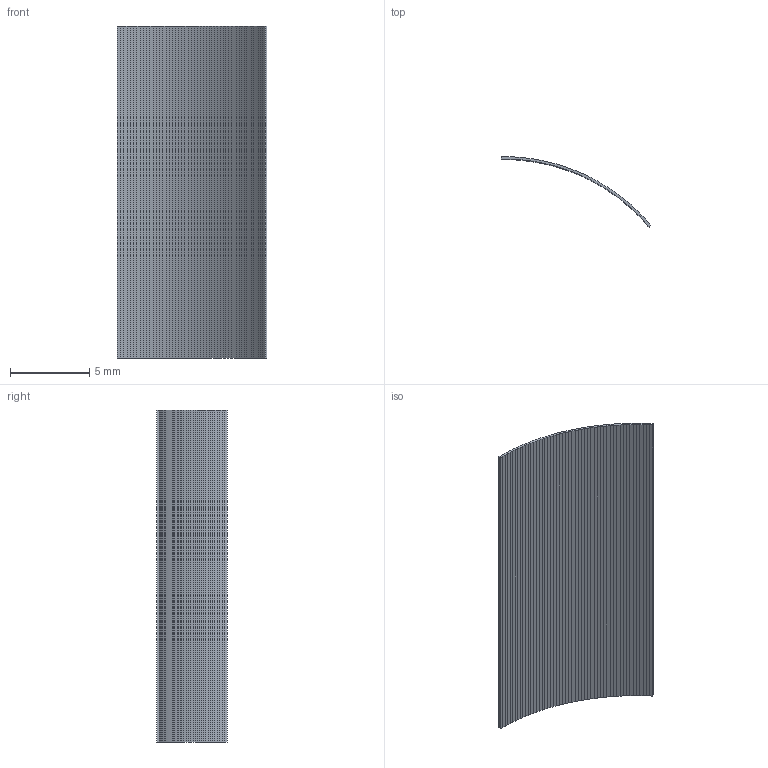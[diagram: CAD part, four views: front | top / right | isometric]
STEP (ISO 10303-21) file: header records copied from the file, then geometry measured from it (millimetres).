
FILE_DESCRIPTION(('Open CASCADE Model'),'2;1');
FILE_NAME('Open CASCADE Shape Model','2026-10-04T01:02:35',('Author'),( 'Open CASCADE'),'Open CASCADE STEP processor 8.0','Open CASCADE 8.0' ,'Unknown');
FILE_SCHEMA(('AUTOMOTIVE_DESIGN { 1 0 10303 214 1 1 1 1 }'));
Length unit declared in the file: millimetre
Products named in the file (1): Open CASCADE STEP translator 8.0 397
Bounding box: 9.47 x 4.43 x 21 mm (x, y, z)
Volume: 33.7 mm3; surface area: 458.6 mm2
Topology: 1 solids, 1 shells, 106 faces, 312 edges, 208 vertices
Faces by surface type: plane 106
Entity records: 7522 total; most frequent: CARTESIAN_POINT 1251, DIRECTION 1150, LINE 936, VECTOR 936, ORIENTED_EDGE 624, PCURVE 624, DEFINITIONAL_REPRESENTATION 624, EDGE_CURVE 312
